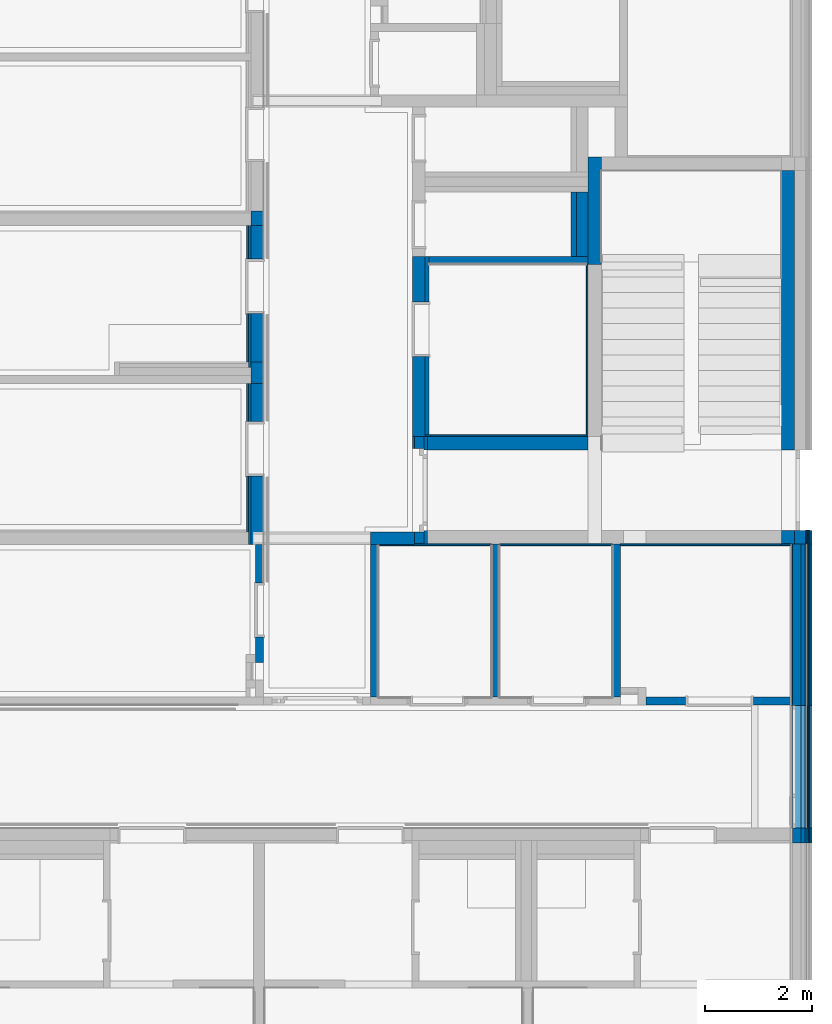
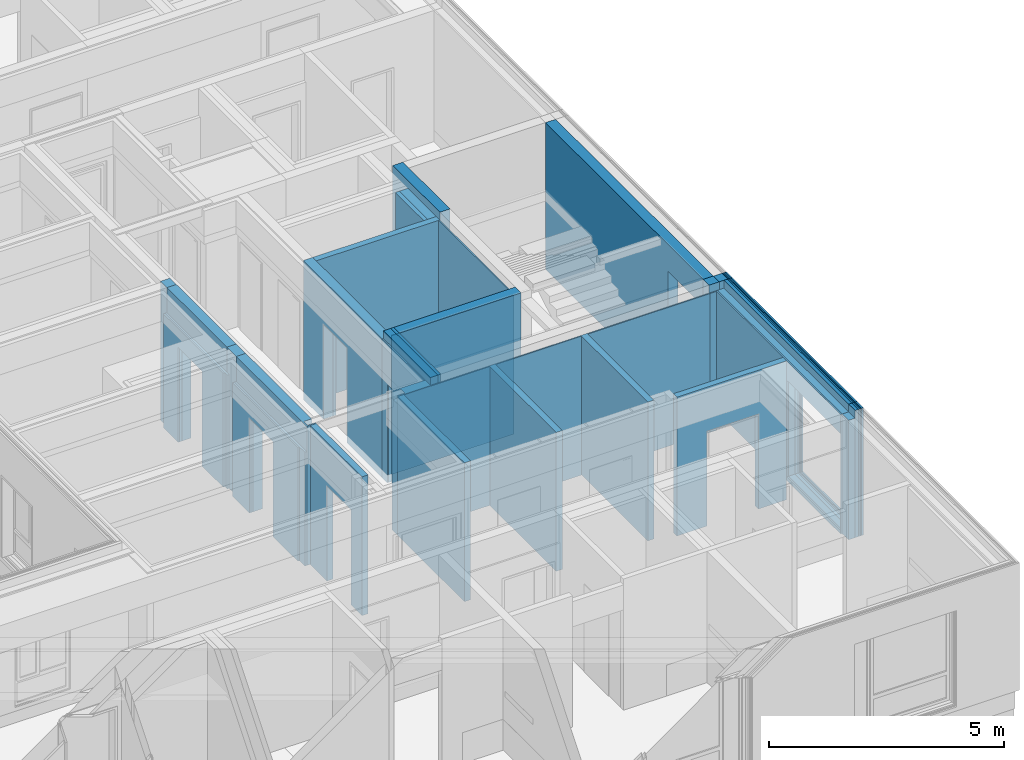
# One storey, part 55 of 207: 48 walls, 21 openings.
"""IFC4 building model written with IfcOpenShell, lengths in metres."""

from ifc_helpers import new_model, entity, si_unit, converted_unit, derived_unit, frame, frame_2d, origin, origin_with_axes, place, context, subcontext, project, spatial, polyline, rectangle, outline, extrude, clip, bounded_halfspace, material, element, save


model = new_model("IFC4")

# Units and contexts
model_context = context("Model", 3, precision=1e-05, world=origin())
body_context = subcontext(model_context, "Body", "Model", "MODEL_VIEW")
ifc_project = project(units=[si_unit("LENGTHUNIT", "METRE"), si_unit("AREAUNIT", "SQUARE_METRE"), si_unit("VOLUMEUNIT", "CUBIC_METRE"), si_unit("MASSUNIT", "GRAM", prefix="KILO"), converted_unit("PLANEANGLEUNIT", "DEGREE", entity("IfcPlaneAngleMeasure", 0.0174532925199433), si_unit("PLANEANGLEUNIT", "RADIAN"), dimensions=[0, 0, 0, 0, 0, 0, 0]), derived_unit("THERMALTRANSMITTANCEUNIT", [(si_unit("POWERUNIT", "WATT"), 1), (si_unit("THERMODYNAMICTEMPERATUREUNIT", "KELVIN"), -1), (si_unit("LENGTHUNIT", "METRE"), -2)]), derived_unit("VOLUMETRICFLOWRATEUNIT", [(si_unit("LENGTHUNIT", "METRE"), 3), (converted_unit("TIMEUNIT", "hour", entity("IfcTimeMeasure", 3600.0), si_unit("TIMEUNIT", "SECOND"), dimensions=[0, 0, 1, 0, 0, 0, 0]), -1), (si_unit("LENGTHUNIT", "METRE"), -1)])], contexts=[model_context])

# Site, building, storey
site_placement = place(None, origin())
site = spatial("IfcSite", under=ifc_project, at=site_placement, Name="Psychiatrie Neubau Wunstorf", CompositionType="ELEMENT")
building_placement = place(site_placement, origin())
building = spatial("IfcBuilding", under=site, at=building_placement, Name="Neubau H2 Stationsgebäude", CompositionType="ELEMENT")
storey_placement = place(building_placement, frame((0.0, 0.0, -0.2)))
storey = spatial("IfcBuildingStorey", under=building, at=storey_placement, Name="H2 Ebene 0", CompositionType="ELEMENT", Elevation=-0.2)

# Wall, opening
ifc_material_1 = material(Name="WA-LB")
wall_1_placement = place(storey_placement, frame((105.889, 10.6249998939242, 0.5), z_axis=(0.0, 0.0, 1.0), x_axis=(0.0, -1.0, 0.0)))
wall_1 = element("IfcWall", 1, at=wall_1_placement, inside=storey, material=ifc_material_1, context=body_context, shape_type="SweptSolid", body=[
    extrude(rectangle(XDim=5.29249989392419, YDim=0.036, at=frame_2d((2.6462499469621, 0.018), x_axis=(1.0, 0.0))), origin_with_axes(), (0.0, 0.0, 1.0), 3.1),
])
opening_1_placement = place(wall_1_placement, frame((3.00624994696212, 0.0, 0.1), z_axis=(0.0, 1.0, 0.0), x_axis=(0.0, 0.0, 1.0)))
element("IfcOpeningElement", 2, at=opening_1_placement, cuts=wall_1, Name="Fensteröffnung", ObjectType="Opening", context=body_context, shape_type="SweptSolid", body=[
    extrude(outline(polyline([(2.5, 2.28), (2.5, 0.0), (0.0, 0.0), (0.0, 2.28), (2.5, 2.28)])), origin_with_axes(), (0.0, 0.0, 1.0), 0.036),
])

ifc_material_2 = material(Name="WA-HD")
wall_2_placement = place(storey_placement, frame((105.925, 10.6249998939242, 0.5), z_axis=(0.0, 0.0, 1.0), x_axis=(0.0, -1.0, 0.0)))
wall_2 = element("IfcWall", 3, at=wall_2_placement, inside=storey, material=ifc_material_2, context=body_context, shape_type="SweptSolid", body=[
    extrude(rectangle(XDim=5.29249989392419, YDim=0.16, at=frame_2d((2.6462499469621, 0.08), x_axis=(1.0, 0.0))), origin_with_axes(), (0.0, 0.0, 1.0), 3.1),
])
opening_2_placement = place(wall_2_placement, frame((3.00624994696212, 0.0, 0.1), z_axis=(0.0, 1.0, 0.0), x_axis=(0.0, 0.0, 1.0)))
element("IfcOpeningElement", 4, at=opening_2_placement, cuts=wall_2, Name="Fensteröffnung", ObjectType="Opening", context=body_context, shape_type="SweptSolid", body=[
    extrude(outline(polyline([(2.5, 2.28), (2.5, 0.0), (0.0, 0.0), (0.0, 2.28), (2.5, 2.28)])), origin_with_axes(), (0.0, 0.0, 1.0), 0.16),
])

ifc_material_3 = material(Name="WA-DL")
wall_3_placement = place(storey_placement, frame((106.085, 10.6249998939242, 0.5), z_axis=(0.0, 0.0, 1.0), x_axis=(0.0, -1.0, 0.0)))
wall_3 = element("IfcWall", 5, at=wall_3_placement, inside=storey, material=ifc_material_3, context=body_context, shape_type="SweptSolid", body=[
    extrude(rectangle(XDim=5.29249989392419, YDim=0.08, at=frame_2d((2.6462499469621, 0.04), x_axis=(1.0, 0.0))), origin_with_axes(), (0.0, 0.0, 1.0), 3.3),
])
opening_3_placement = place(wall_3_placement, frame((3.00624994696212, 0.0, 0.1), z_axis=(0.0, 1.0, 0.0), x_axis=(0.0, 0.0, 1.0)))
element("IfcOpeningElement", 6, at=opening_3_placement, cuts=wall_3, Name="Fensteröffnung", ObjectType="Opening", context=body_context, shape_type="SweptSolid", body=[
    extrude(outline(polyline([(2.5, 2.28), (2.5, 0.0), (0.0, 0.0), (0.0, 2.28), (2.5, 2.28)])), origin_with_axes(), (0.0, 0.0, 1.0), 0.08),
])

ifc_material_4 = material(Name="WA-TP")
wall_4_placement = place(storey_placement, frame((106.165, 10.6249998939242, 0.5), z_axis=(0.0, 0.0, 1.0), x_axis=(0.0, -1.0, 0.0)))
wall_4 = element("IfcWall", 7, at=wall_4_placement, inside=storey, material=ifc_material_4, context=body_context, shape_type="SweptSolid", body=[
    extrude(rectangle(XDim=5.29249989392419, YDim=0.036, at=frame_2d((2.6462499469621, 0.018), x_axis=(1.0, 0.0))), origin_with_axes(), (0.0, 0.0, 1.0), 3.3),
])
opening_4_placement = place(wall_4_placement, frame((3.00624994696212, 0.0, 0.1), z_axis=(0.0, 1.0, 0.0), x_axis=(0.0, 0.0, 1.0)))
element("IfcOpeningElement", 8, at=opening_4_placement, cuts=wall_4, Name="Fensteröffnung", ObjectType="Opening", context=body_context, shape_type="SweptSolid", body=[
    extrude(outline(polyline([(2.5, 2.28), (2.5, 0.0), (0.0, 0.0), (0.0, 2.28), (2.5, 2.28)])), origin_with_axes(), (0.0, 0.0, 1.0), 0.036),
])

ifc_material_5 = material(Name="WA-KL")
wall_5_placement = place(storey_placement, frame((106.201, 10.6249998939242, 0.5), z_axis=(0.0, 0.0, 1.0), x_axis=(0.0, -1.0, 0.0)))
wall_5 = element("IfcWall", 9, at=wall_5_placement, inside=storey, material=ifc_material_5, context=body_context, shape_type="SweptSolid", body=[
    extrude(rectangle(XDim=5.29249989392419, YDim=0.024, at=frame_2d((2.6462499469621, 0.012), x_axis=(1.0, 0.0))), origin_with_axes(), (0.0, 0.0, 1.0), 3.3),
])
opening_5_placement = place(wall_5_placement, frame((3.00624994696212, 0.0, 0.1), z_axis=(0.0, 1.0, 0.0), x_axis=(0.0, 0.0, 1.0)))
element("IfcOpeningElement", 10, at=opening_5_placement, cuts=wall_5, Name="Fensteröffnung", ObjectType="Opening", context=body_context, shape_type="SweptSolid", body=[
    extrude(outline(polyline([(2.5, 2.28), (2.5, 0.0), (0.0, 0.0), (0.0, 2.28), (2.5, 2.28)])), origin_with_axes(), (0.0, 0.0, 1.0), 0.024),
])

ifc_material_6 = material(Name="WA-TL")
wall_6_placement = place(storey_placement, frame((106.225, 10.6249998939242, 0.5), z_axis=(0.0, 0.0, 1.0), x_axis=(0.0, -1.0, 0.0)))
wall_6 = element("IfcWall", 11, at=wall_6_placement, inside=storey, material=ifc_material_6, context=body_context, shape_type="SweptSolid", body=[
    extrude(rectangle(XDim=5.29249989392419, YDim=0.024, at=frame_2d((2.6462499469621, 0.012), x_axis=(1.0, 0.0))), origin_with_axes(), (0.0, 0.0, 1.0), 3.3),
])
opening_6_placement = place(wall_6_placement, frame((3.00624994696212, 0.0, 0.1), z_axis=(0.0, 1.0, 0.0), x_axis=(0.0, 0.0, 1.0)))
element("IfcOpeningElement", 12, at=opening_6_placement, cuts=wall_6, Name="Fensteröffnung", ObjectType="Opening", context=body_context, shape_type="SweptSolid", body=[
    extrude(outline(polyline([(2.5, 2.28), (2.5, 0.0), (0.0, 0.0), (0.0, 2.28), (2.5, 2.28)])), origin_with_axes(), (0.0, 0.0, 1.0), 0.024),
])

ifc_material_7 = material(Name="WA-HS")
wall_7_placement = place(storey_placement, frame((106.249, 10.6249998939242, 0.5), z_axis=(0.0, 0.0, 1.0), x_axis=(0.0, -1.0, 0.0)))
wall_7 = element("IfcWall", 13, at=wall_7_placement, inside=storey, material=ifc_material_7, context=body_context, shape_type="SweptSolid", body=[
    extrude(rectangle(XDim=5.29249989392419, YDim=0.042, at=frame_2d((2.6462499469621, 0.021), x_axis=(1.0, 0.0))), origin_with_axes(), (0.0, 0.0, 1.0), 3.3),
])
opening_7_placement = place(wall_7_placement, frame((3.00624994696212, 0.0, 0.1), z_axis=(0.0, 1.0, 0.0), x_axis=(0.0, 0.0, 1.0)))
element("IfcOpeningElement", 14, at=opening_7_placement, cuts=wall_7, Name="Fensteröffnung", ObjectType="Opening", context=body_context, shape_type="SweptSolid", body=[
    extrude(outline(polyline([(2.5, 2.28), (2.5, 0.0), (0.0, 0.0), (0.0, 2.28), (2.5, 2.28)])), origin_with_axes(), (0.0, 0.0, 1.0), 0.042),
])

# Walls
ifc_material_8 = material(Name="WA-HD")
wall_8_placement = place(storey_placement, frame((105.925, 5.33250000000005, 0.5), z_axis=(0.0, 0.0, 1.0), x_axis=(0.0, -1.0, 0.0)))
element("IfcWall", 15, at=wall_8_placement, inside=storey, material=ifc_material_8, context=body_context, shape_type="SweptSolid", body=[
    extrude(rectangle(XDim=0.272, YDim=0.16, at=frame_2d((0.136, 0.08), x_axis=(1.0, 0.0))), origin_with_axes(), (0.0, 0.0, 1.0), 3.1),
])
ifc_material_9 = material(Name="WA-DL")
wall_9_placement = place(storey_placement, frame((106.085, 5.33250000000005, 0.5), z_axis=(0.0, 0.0, 1.0), x_axis=(0.0, -1.0, 0.0)))
element("IfcWall", 16, at=wall_9_placement, inside=storey, material=ifc_material_9, context=body_context, shape_type="SweptSolid", body=[
    extrude(rectangle(XDim=0.272, YDim=0.08, at=frame_2d((0.136, 0.04), x_axis=(1.0, 0.0))), origin_with_axes(), (0.0, 0.0, 1.0), 3.3),
])
ifc_material_10 = material(Name="WA-TP")
wall_10_placement = place(storey_placement, frame((106.165, 5.33250000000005, 0.5), z_axis=(0.0, 0.0, 1.0), x_axis=(0.0, -1.0, 0.0)))
element("IfcWall", 17, at=wall_10_placement, inside=storey, material=ifc_material_10, context=body_context, shape_type="SweptSolid", body=[
    extrude(rectangle(XDim=0.272, YDim=0.036, at=frame_2d((0.136, 0.018), x_axis=(1.0, 0.0))), origin_with_axes(), (0.0, 0.0, 1.0), 3.3),
])
ifc_material_11 = material(Name="WA-KL")
wall_11_placement = place(storey_placement, frame((106.201, 5.33250000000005, 0.5), z_axis=(0.0, 0.0, 1.0), x_axis=(0.0, -1.0, 0.0)))
element("IfcWall", 18, at=wall_11_placement, inside=storey, material=ifc_material_11, context=body_context, shape_type="SweptSolid", body=[
    extrude(rectangle(XDim=0.272, YDim=0.024, at=frame_2d((0.136, 0.012), x_axis=(1.0, 0.0))), origin_with_axes(), (0.0, 0.0, 1.0), 3.3),
])
ifc_material_12 = material(Name="WA-TL")
wall_12_placement = place(storey_placement, frame((106.225, 5.33250000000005, 0.5), z_axis=(0.0, 0.0, 1.0), x_axis=(0.0, -1.0, 0.0)))
element("IfcWall", 19, at=wall_12_placement, inside=storey, material=ifc_material_12, context=body_context, shape_type="SweptSolid", body=[
    extrude(rectangle(XDim=0.272, YDim=0.024, at=frame_2d((0.136, 0.012), x_axis=(1.0, 0.0))), origin_with_axes(), (0.0, 0.0, 1.0), 3.3),
])
ifc_material_13 = material(Name="WA-HS")
wall_13_placement = place(storey_placement, frame((106.249, 5.33250000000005, 0.5), z_axis=(0.0, 0.0, 1.0), x_axis=(0.0, -1.0, 0.0)))
element("IfcWall", 20, at=wall_13_placement, inside=storey, material=ifc_material_13, context=body_context, shape_type="SweptSolid", body=[
    extrude(rectangle(XDim=0.272, YDim=0.042, at=frame_2d((0.136, 0.021), x_axis=(1.0, 0.0))), origin_with_axes(), (0.0, 0.0, 1.0), 3.3),
])

# Wall, opening
ifc_material_14 = material(Name="WA-STB")
wall_14_placement = place(storey_placement, frame((105.72, 17.575, 0.0), z_axis=(0.0, 0.0, 1.0), x_axis=(0.0, -1.0, 0.0)))
wall_14 = element("IfcWall", 21, at=wall_14_placement, inside=storey, material=ifc_material_14, context=body_context, shape_type="SweptSolid", body=[
    extrude(rectangle(XDim=6.70000010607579, YDim=0.25, at=frame_2d((3.3500000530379, 0.125), x_axis=(1.0, 0.0))), origin_with_axes(), (0.0, 0.0, 1.0), 3.8),
])
opening_8_placement = place(wall_14_placement, frame((6.70000010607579, 0.25, 0.0), z_axis=(0.0, -1.0, 0.0), x_axis=(0.0, 0.0, 1.0)))
element("IfcOpeningElement", 22, at=opening_8_placement, cuts=wall_14, Name="Türöffnung", ObjectType="Opening", context=body_context, shape_type="SweptSolid", body=[
    extrude(outline(polyline([(3.1, 1.5000257), (3.1, 0.0), (0.0, 0.0), (0.0, 1.5000257), (3.1, 1.5000257)])), origin_with_axes(), (0.0, 0.0, 1.0), 0.25),
])

# Walls
ifc_material_15 = material(Name="WA-STB")
wall_15_placement = place(storey_placement, frame((105.72, 10.8749998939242, 0.0), z_axis=(0.0, 0.0, 1.0), x_axis=(0.0, -1.0, 0.0)))
element("IfcWall", 23, at=wall_15_placement, inside=storey, material=ifc_material_15, context=body_context, shape_type="SweptSolid", body=[
    extrude(rectangle(XDim=0.25, YDim=0.25, at=frame_2d((0.125, 0.125), x_axis=(1.0, 0.0))), origin_with_axes(), (0.0, 0.0, 1.0), 3.8),
])
ifc_material_16 = material(Name="WA-DL")
wall_16_placement = place(storey_placement, frame((105.97, 10.8749998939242, 0.0), z_axis=(0.0, 0.0, 1.0), x_axis=(0.0, -1.0, 0.0)))
element("IfcWall", 24, at=wall_16_placement, inside=storey, material=ifc_material_16, context=body_context, shape_type="SweptSolid", body=[
    extrude(rectangle(XDim=0.25, YDim=0.21, at=frame_2d((0.125, 0.105), x_axis=(1.0, 0.0))), origin_with_axes(), (0.0, 0.0, 1.0), 3.8),
])
ifc_material_17 = material(Name="WA-LB")
wall_17_placement = place(storey_placement, frame((106.18, 10.8749998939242, 0.5), z_axis=(0.0, 0.0, 1.0), x_axis=(0.0, -1.0, 0.0)))
element("IfcWall", 25, at=wall_17_placement, inside=storey, material=ifc_material_17, context=body_context, shape_type="SweptSolid", body=[
    extrude(rectangle(XDim=0.25, YDim=0.021, at=frame_2d((0.125, 0.0105), x_axis=(1.0, 0.0))), origin_with_axes(), (0.0, 0.0, 1.0), 3.3),
])
ifc_material_18 = material(Name="WA-KL")
wall_18_placement = place(storey_placement, frame((106.201, 10.8749998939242, 0.0), z_axis=(0.0, 0.0, 1.0), x_axis=(0.0, -1.0, 0.0)))
element("IfcWall", 26, at=wall_18_placement, inside=storey, material=ifc_material_18, context=body_context, shape_type="SweptSolid", body=[
    extrude(rectangle(XDim=0.25, YDim=0.024, at=frame_2d((0.125, 0.012), x_axis=(1.0, 0.0))), origin_with_axes(), (0.0, 0.0, 1.0), 3.8),
])
ifc_material_19 = material(Name="WA-TL")
wall_19_placement = place(storey_placement, frame((106.225, 10.8749998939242, 0.0), z_axis=(0.0, 0.0, 1.0), x_axis=(0.0, -1.0, 0.0)))
element("IfcWall", 27, at=wall_19_placement, inside=storey, material=ifc_material_19, context=body_context, shape_type="SweptSolid", body=[
    extrude(rectangle(XDim=0.25, YDim=0.024, at=frame_2d((0.125, 0.012), x_axis=(1.0, 0.0))), origin_with_axes(), (0.0, 0.0, 1.0), 3.8),
])
ifc_material_20 = material(Name="WA-HS")
wall_20_placement = place(storey_placement, frame((106.249, 10.8749998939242, 0.0), z_axis=(0.0, 0.0, 1.0), x_axis=(0.0, -1.0, 0.0)))
element("IfcWall", 28, at=wall_20_placement, inside=storey, material=ifc_material_20, context=body_context, shape_type="SweptSolid", body=[
    extrude(rectangle(XDim=0.25, YDim=0.042, at=frame_2d((0.125, 0.021), x_axis=(1.0, 0.0))), origin_with_axes(), (0.0, 0.0, 1.0), 3.8),
])
ifc_material_21 = material(Name="Installationsraum")
wall_21_placement = place(storey_placement, frame((102.12, 15.9749998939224, 0.0), z_axis=(0.0, 0.0, 1.0), x_axis=(0.0, 1.0, 0.0)))
element("IfcWall", 29, at=wall_21_placement, inside=storey, material=ifc_material_21, context=body_context, shape_type="SweptSolid", body=[
    extrude(rectangle(XDim=1.20200277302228, YDim=0.21, at=frame_2d((0.60100138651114, 0.105), x_axis=(1.0, 0.0))), origin_with_axes(), (0.0, 0.0, 1.0), 3.6),
])
ifc_material_22 = material(Name="WI-VS")
wall_22_placement = place(storey_placement, frame((101.91, 15.9749998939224, 0.0), z_axis=(0.0, 0.0, 1.0), x_axis=(0.0, 1.0, 0.0)))
element("IfcWall", 30, at=wall_22_placement, inside=storey, material=ifc_material_22, context=body_context, shape_type="SweptSolid", body=[
    extrude(rectangle(XDim=1.20200277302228, YDim=0.1, at=frame_2d((0.60100138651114, 0.05), x_axis=(1.0, 0.0))), origin_with_axes(), (0.0, 0.0, 1.0), 3.6),
])
ifc_material_23 = material(Name="WI-LB")
wall_23_placement = place(storey_placement, frame((100.325, 10.6249998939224, 0.0), z_axis=(0.0, 0.0, 1.0), x_axis=(0.0, -1.0, 0.0)))
element("IfcWall", 31, at=wall_23_placement, inside=storey, material=ifc_material_23, context=body_context, shape_type="SweptSolid", body=[
    extrude(rectangle(XDim=2.85, YDim=0.15, at=frame_2d((1.425, 0.075), x_axis=(1.0, 0.0))), origin_with_axes(), (0.0, 0.0, 1.0), 3.6),
])
ifc_material_24 = material(Name="WI-HW 60")
wall_24_placement = place(storey_placement, frame((95.8505, 14.0109999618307, 0.0), z_axis=(0.0, 0.0, 1.0), x_axis=(0.0, -1.0, 0.0)))
element("IfcWall", 32, at=wall_24_placement, inside=storey, material=ifc_material_24, context=body_context, shape_type="SweptSolid", body=[
    extrude(rectangle(XDim=0.4, YDim=0.232, at=frame_2d((0.2, 0.116), x_axis=(1.0, 0.0))), origin_with_axes(), (0.0, 0.0, 1.0), 3.6),
])

# Wall, opening
ifc_material_25 = material(Name="WI-LB")
wall_25_placement = place(storey_placement, frame((95.7609999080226, 13.6109999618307, 0.0), z_axis=(0.0, 0.0, 1.0), x_axis=(0.0, -1.0, 0.0)))
wall_25 = element("IfcWall", 33, at=wall_25_placement, inside=storey, material=ifc_material_25, context=body_context, shape_type="SweptSolid", body=[
    extrude(rectangle(XDim=2.76850006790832, YDim=0.0395, at=frame_2d((1.38425003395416, 0.01975), x_axis=(1.0, 0.0))), origin_with_axes(), (0.0, 0.0, 1.0), 2.95),
])
opening_9_placement = place(wall_25_placement, frame((1.72099996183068, 0.0395, 0.0), z_axis=(0.0, -1.0, 0.0), x_axis=(0.0, 0.0, 1.0)))
element("IfcOpeningElement", 34, at=opening_9_placement, cuts=wall_25, Name="Türöffnung", ObjectType="Opening", context=body_context, shape_type="SweptSolid", body=[
    extrude(outline(polyline([(2.46, 1.01), (2.46, 0.0), (0.0, 0.0), (0.0, 1.01), (2.46, 1.01)])), origin_with_axes(), (0.0, 0.0, 1.0), 0.0395),
])

ifc_material_26 = material(Name="Installationsraum")
wall_26_placement = place(storey_placement, frame((95.8004999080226, 13.6109999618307, 0.0), z_axis=(0.0, 0.0, 1.0), x_axis=(0.0, -1.0, 0.0)))
wall_26 = element("IfcWall", 35, at=wall_26_placement, inside=storey, material=ifc_material_26, context=body_context, shape_type="SweptSolid", body=[
    extrude(rectangle(XDim=3.00050006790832, YDim=0.05, at=frame_2d((1.50025003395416, 0.025), x_axis=(1.0, 0.0))), origin_with_axes(), (0.0, 0.0, 1.0), 2.95),
])
opening_10_placement = place(wall_26_placement, frame((1.72099996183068, 0.05, 0.0), z_axis=(0.0, -1.0, 0.0), x_axis=(0.0, 0.0, 1.0)))
element("IfcOpeningElement", 36, at=opening_10_placement, cuts=wall_26, Name="Türöffnung", ObjectType="Opening", context=body_context, shape_type="SweptSolid", body=[
    extrude(outline(polyline([(2.46, 1.01), (2.46, 0.0), (0.0, 0.0), (0.0, 1.01), (2.46, 1.01)])), origin_with_axes(), (0.0, 0.0, 1.0), 0.05),
])

ifc_material_27 = material(Name="WI-HW 60")
wall_27_placement = place(storey_placement, frame((95.8504999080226, 13.6109999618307, 0.0), z_axis=(0.0, 0.0, 1.0), x_axis=(3.06540294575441e-08, -1.0, 0.0)))
wall_27 = element("IfcWall", 37, at=wall_27_placement, inside=storey, material=ifc_material_27, context=body_context, shape_type="Clipping", body=[
    clip(extrude(outline(polyline([(-3.00050006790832, 9.19774174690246e-08), (-0.231999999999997, 9.90891523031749e-08), (0.0, 9.19774174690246e-08), (0.0, 0.232), (-3.00050006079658, 0.232000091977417), (-3.00050006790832, 9.19774174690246e-08)])), frame((3.00050006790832, -9.19774174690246e-08, 0.0), z_axis=(0.0, 0.0, 1.0), x_axis=(1.0, 0.0, 0.0)), (0.0, 0.0, 1.0), 3.6), bounded_halfspace(frame((2.88450147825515, 0.133996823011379, 3.4), z_axis=(0.0, 0.0, -1.0), x_axis=(1.0, -3.06540294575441e-08, 0.0)), True, origin_with_axes(), polyline([(2.80450147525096, 0.0359937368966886), (2.96450147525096, 0.0359937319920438), (2.96450148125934, 0.231999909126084), (2.80450148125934, 0.231999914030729), (2.80450147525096, 0.0359937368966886)]))),
])
opening_11_placement = place(wall_27_placement, frame((1.72099996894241, 0.231999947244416, 0.0), z_axis=(-3.06540298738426e-08, -0.999999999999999, 0.0), x_axis=(0.0, 0.0, 1.0)))
element("IfcOpeningElement", 38, at=opening_11_placement, cuts=wall_27, Name="Türöffnung", ObjectType="Opening", context=body_context, shape_type="SweptSolid", body=[
    extrude(outline(polyline([(2.46, 1.01), (2.46, 0.0), (0.0, 0.0), (0.0, 1.01), (2.46, 1.01)])), origin_with_axes(), (0.0, 0.0, 1.0), 0.232),
])

# Wall
ifc_material_28 = material(Name="WI-LB")
wall_28_placement = place(storey_placement, frame((98.075, 10.6107484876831, 0.0), z_axis=(0.0, 0.0, 1.0), x_axis=(0.0, -1.0, 0.0)))
element("IfcWall", 39, at=wall_28_placement, inside=storey, material=ifc_material_28, context=body_context, shape_type="SweptSolid", body=[
    extrude(rectangle(XDim=2.83574859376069, YDim=0.15, at=frame_2d((1.41787429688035, 0.075), x_axis=(1.0, 0.0))), origin_with_axes(), (0.0, 0.0, 1.0), 3.6),
])

# Wall, opening
ifc_material_29 = material(Name="WI-LB")
wall_29_placement = place(storey_placement, frame((95.7610000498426, 16.5535, 0.0), z_axis=(0.0, 0.0, 1.0), x_axis=(0.0, -1.0, 0.0)))
wall_29 = element("IfcWall", 40, at=wall_29_placement, inside=storey, material=ifc_material_29, context=body_context, shape_type="SweptSolid", body=[
    extrude(rectangle(XDim=2.54250003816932, YDim=0.0395, at=frame_2d((1.27125001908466, 0.01975), x_axis=(1.0, 0.0))), origin_with_axes(), (0.0, 0.0, 1.0), 2.95),
])
opening_12_placement = place(wall_29_placement, frame((1.63849999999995, 0.0395, 0.0), z_axis=(0.0, -1.0, 0.0), x_axis=(0.0, 0.0, 1.0)))
element("IfcOpeningElement", 41, at=opening_12_placement, cuts=wall_29, Name="Türöffnung", ObjectType="Opening", context=body_context, shape_type="SweptSolid", body=[
    extrude(outline(polyline([(2.46, 1.01), (2.46, 0.0), (0.0, 0.0), (0.0, 1.01), (2.46, 1.01)])), origin_with_axes(), (0.0, 0.0, 1.0), 0.0395),
])

ifc_material_30 = material(Name="Installationsraum")
wall_30_placement = place(storey_placement, frame((95.8005000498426, 16.5535, 0.0), z_axis=(0.0, 0.0, 1.0), x_axis=(0.0, -1.0, 0.0)))
wall_30 = element("IfcWall", 42, at=wall_30_placement, inside=storey, material=ifc_material_30, context=body_context, shape_type="SweptSolid", body=[
    extrude(rectangle(XDim=2.64250003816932, YDim=0.05, at=frame_2d((1.32125001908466, 0.025), x_axis=(1.0, 0.0))), origin_with_axes(), (0.0, 0.0, 1.0), 2.95),
])
opening_13_placement = place(wall_30_placement, frame((1.63849999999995, 0.05, 0.0), z_axis=(0.0, -1.0, 0.0), x_axis=(0.0, 0.0, 1.0)))
element("IfcOpeningElement", 43, at=opening_13_placement, cuts=wall_30, Name="Türöffnung", ObjectType="Opening", context=body_context, shape_type="SweptSolid", body=[
    extrude(outline(polyline([(2.46, 1.01), (2.46, 0.0), (0.0, 0.0), (0.0, 1.01), (2.46, 1.01)])), origin_with_axes(), (0.0, 0.0, 1.0), 0.05),
])

ifc_material_31 = material(Name="WI-HW 60")
wall_31_placement = place(storey_placement, frame((95.8505000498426, 16.5535, 0.0), z_axis=(0.0, 0.0, 1.0), x_axis=(0.0, -1.0, 0.0)))
wall_31 = element("IfcWall", 44, at=wall_31_placement, inside=storey, material=ifc_material_31, context=body_context, shape_type="SweptSolid", body=[
    extrude(rectangle(XDim=2.54250003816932, YDim=0.231999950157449, at=frame_2d((1.27125001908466, 0.115999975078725), x_axis=(1.0, 0.0))), origin_with_axes(), (0.0, 0.0, 1.0), 3.6),
])
opening_14_placement = place(wall_31_placement, frame((1.63849999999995, 0.231999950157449, 0.0), z_axis=(0.0, -1.0, 0.0), x_axis=(0.0, 0.0, 1.0)))
element("IfcOpeningElement", 45, at=opening_14_placement, cuts=wall_31, Name="Türöffnung", ObjectType="Opening", context=body_context, shape_type="SweptSolid", body=[
    extrude(outline(polyline([(2.46, 1.01), (2.46, 0.0), (0.0, 0.0), (0.0, 1.01), (2.46, 1.01)])), origin_with_axes(), (0.0, 0.0, 1.0), 0.231999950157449),
])

# Wall
ifc_material_32 = material(Name="WI-HW 60")
wall_32_placement = place(storey_placement, frame((95.8505, 16.8255, 0.0), z_axis=(0.0, 0.0, 1.0), x_axis=(0.0, -1.0, 0.0)))
element("IfcWall", 46, at=wall_32_placement, inside=storey, material=ifc_material_32, context=body_context, shape_type="SweptSolid", body=[
    extrude(rectangle(XDim=0.272, YDim=0.232, at=frame_2d((0.136, 0.116), x_axis=(1.0, 0.0))), origin_with_axes(), (0.0, 0.0, 1.0), 3.6),
])

# Wall, opening
ifc_material_33 = material(Name="WI-LB")
wall_33_placement = place(storey_placement, frame((103.2, 7.62499989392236, 0.0)))
wall_33 = element("IfcWall", 47, at=wall_33_placement, inside=storey, material=ifc_material_33, context=body_context, shape_type="SweptSolid", body=[
    extrude(rectangle(XDim=2.689, YDim=0.15, at=frame_2d((1.3445, 0.075), x_axis=(1.0, 0.0))), origin_with_axes(), (0.0, 0.0, 1.0), 3.6),
])
opening_15_placement = place(wall_33_placement, frame((2.0, 0.15, 0.0), z_axis=(0.0, -1.0, 0.0), x_axis=(0.0, 0.0, 1.0)))
element("IfcOpeningElement", 48, at=opening_15_placement, cuts=wall_33, Name="Türöffnung", ObjectType="Opening", context=body_context, shape_type="SweptSolid", body=[
    extrude(outline(polyline([(2.46, 1.26), (2.46, 0.0), (0.0, 0.0), (0.0, 1.26), (2.46, 1.26)])), origin_with_axes(), (0.0, 0.0, 1.0), 0.15),
])

ifc_material_34 = material(Name="WI-LB")
wall_34_placement = place(storey_placement, frame((95.9325000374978, 10.6104998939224, 0.0), z_axis=(0.0, 0.0, 1.0), x_axis=(0.0, -1.0, 0.0)))
wall_34 = element("IfcWall", 49, at=wall_34_placement, inside=storey, material=ifc_material_34, context=body_context, shape_type="SweptSolid", body=[
    extrude(rectangle(XDim=2.19550000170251, YDim=0.15, at=frame_2d((1.09775000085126, 0.075), x_axis=(1.0, 0.0))), origin_with_axes(), (0.0, 0.0, 1.0), 3.6),
])
opening_16_placement = place(wall_34_placement, frame((1.72049989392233, 0.15, 0.0), z_axis=(0.0, -1.0, 0.0), x_axis=(0.0, 0.0, 1.0)))
element("IfcOpeningElement", 50, at=opening_16_placement, cuts=wall_34, Name="Türöffnung", ObjectType="Opening", context=body_context, shape_type="SweptSolid", body=[
    extrude(outline(polyline([(2.46, 1.01), (2.46, 0.0), (0.0, 0.0), (0.0, 1.01), (2.46, 1.01)])), origin_with_axes(), (0.0, 0.0, 1.0), 0.15),
])

# Walls
ifc_material_35 = material(Name="WI-LB")
wall_35_placement = place(storey_placement, frame((99.091, 12.6250013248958, 0.0), z_axis=(0.0, 0.0, 1.0), x_axis=(0.999999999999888, -4.72423644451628e-07, 0.0)))
element("IfcWall", 51, at=wall_35_placement, inside=storey, material=ifc_material_35, context=body_context, shape_type="SweptSolid", body=[
    extrude(rectangle(XDim=2.99900036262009, YDim=0.0299996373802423, at=frame_2d((1.49950018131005, 0.0149998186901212), x_axis=(1.0, 0.0))), origin_with_axes(), (0.0, 0.0, 1.0), 3.6),
])
ifc_material_36 = material(Name="WI-LB")
wall_36_placement = place(storey_placement, frame((105.889, 10.6249998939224, 0.0), z_axis=(0.0, 0.0, 1.0), x_axis=(-1.0, 0.0, 0.0)))
element("IfcWall", 52, at=wall_36_placement, inside=storey, material=ifc_material_36, context=body_context, shape_type="SweptSolid", body=[
    extrude(rectangle(XDim=0.169, YDim=0.0299996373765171, at=frame_2d((0.0845, 0.0149998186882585), x_axis=(1.0, 0.0))), origin_with_axes(), (0.0, 0.0, 1.0), 3.6),
])
ifc_material_37 = material(Name="WI-LB")
wall_37_placement = place(storey_placement, frame((102.12, 15.9749998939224, 0.0), z_axis=(0.0, 0.0, 1.0), x_axis=(-1.0, 0.0, 0.0)))
element("IfcWall", 53, at=wall_37_placement, inside=storey, material=ifc_material_37, context=body_context, shape_type="SweptSolid", body=[
    extrude(rectangle(XDim=3.029, YDim=0.15, at=frame_2d((1.5145, 0.075), x_axis=(1.0, 0.0))), origin_with_axes(), (0.0, 0.0, 1.0), 3.6),
])

# Wall, opening
ifc_material_38 = material(Name="WI-LB")
wall_38_placement = place(storey_placement, frame((99.166, 12.6550009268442, 0.0), z_axis=(0.0, 0.0, 1.0), x_axis=(0.0, 1.0, 0.0)))
wall_38 = element("IfcWall", 54, at=wall_38_placement, inside=storey, material=ifc_material_38, context=body_context, shape_type="SweptSolid", body=[
    extrude(rectangle(XDim=3.31999896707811, YDim=0.075, at=frame_2d((1.65999948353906, 0.0375), x_axis=(1.0, 0.0))), origin_with_axes(), (0.0, 0.0, 1.0), 2.9),
])
opening_17_placement = place(wall_38_placement, frame((2.47000039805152, 0.075, 0.0), z_axis=(0.0, -1.0, 0.0), x_axis=(0.0, 0.0, 1.0)))
element("IfcOpeningElement", 55, at=opening_17_placement, cuts=wall_38, Name="Türöffnung", ObjectType="Opening", context=body_context, shape_type="SweptSolid", body=[
    extrude(outline(polyline([(2.46, 1.01), (2.46, 0.0), (0.0, 0.0), (0.0, 1.01), (2.46, 1.01)])), origin_with_axes(), (0.0, 0.0, 1.0), 0.075),
])

ifc_material_39 = material(Name="WI-HW 60")
wall_39_placement = place(storey_placement, frame((99.091, 12.6250013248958, 0.0), z_axis=(0.0, 0.0, 1.0), x_axis=(0.0, 1.0, 0.0)))
wall_39 = element("IfcWall", 56, at=wall_39_placement, inside=storey, material=ifc_material_39, context=body_context, shape_type="SweptSolid", body=[
    extrude(rectangle(XDim=3.34999856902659, YDim=0.232, at=frame_2d((1.67499928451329, 0.116), x_axis=(1.0, 0.0))), origin_with_axes(), (0.0, 0.0, 1.0), 3.6),
])
opening_18_placement = place(wall_39_placement, frame((2.5, 0.232, 0.0), z_axis=(0.0, -1.0, 0.0), x_axis=(0.0, 0.0, 1.0)))
element("IfcOpeningElement", 57, at=opening_18_placement, cuts=wall_39, Name="Türöffnung", ObjectType="Opening", context=body_context, shape_type="SweptSolid", body=[
    extrude(outline(polyline([(2.46, 1.01), (2.46, 0.0), (0.0, 0.0), (0.0, 1.01), (2.46, 1.01)])), origin_with_axes(), (0.0, 0.0, 1.0), 0.232),
])

# Walls
ifc_material_40 = material(Name="WI-LB")
wall_40_placement = place(storey_placement, frame((102.575, 10.6249998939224, 0.0), z_axis=(0.0, 0.0, 1.0), x_axis=(0.0, -1.0, 0.0)))
element("IfcWall", 58, at=wall_40_placement, inside=storey, material=ifc_material_40, context=body_context, shape_type="SweptSolid", body=[
    extrude(rectangle(XDim=2.85, YDim=0.15, at=frame_2d((1.425, 0.075), x_axis=(1.0, 0.0))), origin_with_axes(), (0.0, 0.0, 1.0), 3.6),
])
ifc_material_41 = material(Name="WI-HW 60")
wall_41_placement = place(storey_placement, frame((98.0749950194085, 10.6129998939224, 0.0)))
element("IfcWall", 59, at=wall_41_placement, inside=storey, material=ifc_material_41, context=body_context, shape_type="Clipping", body=[
    clip(extrude(rectangle(XDim=0.813996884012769, YDim=0.232, at=frame_2d((0.406998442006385, 0.116), x_axis=(1.0, 0.0))), origin_with_axes(), (0.0, 0.0, 1.0), 3.6), bounded_halfspace(frame((0.1, 0.113498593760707, 3.4), z_axis=(0.0, 0.0, -1.0), x_axis=(0.0, -1.0, 0.0)), True, origin_with_axes(), polyline([(0.0, 0.193498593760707), (0.0, 0.0334985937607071), (0.2, 0.0334985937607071), (0.2, 0.193498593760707), (0.0, 0.193498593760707)]))),
])
ifc_material_42 = material(Name="WI-STB")
wall_42_placement = place(storey_placement, frame((102.12, 17.825, 0.0), z_axis=(0.0, 0.0, 1.0), x_axis=(0.0, -1.0, 0.0)))
element("IfcWall", 60, at=wall_42_placement, inside=storey, material=ifc_material_42, context=body_context, shape_type="SweptSolid", body=[
    extrude(rectangle(XDim=2.00000010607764, YDim=0.25, at=frame_2d((1.00000005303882, 0.125), x_axis=(1.0, 0.0))), origin_with_axes(), (0.0, 0.0, 1.0), 3.8),
])
ifc_material_43 = material(Name="WI-STB")
wall_43_placement = place(storey_placement, frame((102.12, 12.6249998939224, 0.0), z_axis=(0.0, 0.0, 1.0), x_axis=(-1.0, 0.0, 0.0)))
element("IfcWall", 61, at=wall_43_placement, inside=storey, material=ifc_material_43, context=body_context, shape_type="SweptSolid", body=[
    extrude(rectangle(XDim=2.981, YDim=0.25, at=frame_2d((1.4905, 0.125), x_axis=(1.0, 0.0))), origin_with_axes(), (0.0, 0.0, 1.0), 3.8),
])

# Wall, opening
ifc_material_44 = material(Name="WI-STB")
wall_44_placement = place(storey_placement, frame((99.0689919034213, 10.6249998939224, 0.0), z_axis=(0.0, 0.0, 1.0), x_axis=(0.0, 1.0, 0.0)))
wall_44 = element("IfcWall", 62, at=wall_44_placement, inside=storey, material=ifc_material_44, context=body_context, shape_type="SweptSolid", body=[
    extrude(rectangle(XDim=1.99998789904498, YDim=0.18, at=frame_2d((0.999993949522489, 0.09), x_axis=(1.0, 0.0))), origin_with_axes(), (0.0, 0.0, 1.0), 3.8),
])
opening_19_placement = place(wall_44_placement, frame((1.78, 0.18, 0.0), z_axis=(0.0, -1.0, 0.0), x_axis=(0.0, 0.0, 1.0)))
element("IfcOpeningElement", 63, at=opening_19_placement, cuts=wall_44, Name="Türöffnung", ObjectType="Opening", context=body_context, shape_type="SweptSolid", body=[
    extrude(outline(polyline([(2.55, 1.56), (2.55, 0.0), (0.0, 0.0), (0.0, 1.56), (2.55, 1.56)])), origin_with_axes(), (0.0, 0.0, 1.0), 0.18),
])

ifc_material_45 = material(Name="WI-LB")
wall_45_placement = place(storey_placement, frame((98.8889919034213, 10.8449998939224, 0.0), z_axis=(0.0, 0.0, 1.0), x_axis=(0.0, 1.0, 0.0)))
wall_45 = element("IfcWall", 64, at=wall_45_placement, inside=storey, material=ifc_material_45, context=body_context, shape_type="SweptSolid", body=[
    extrude(rectangle(XDim=1.77998789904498, YDim=0.0299996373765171, at=frame_2d((0.889993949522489, 0.0149998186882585), x_axis=(1.0, 0.0))), origin_with_axes(), (0.0, 0.0, 1.0), 3.6),
])
opening_20_placement = place(wall_45_placement, frame((1.56, 0.0299996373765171, 0.0), z_axis=(0.0, -1.0, 0.0), x_axis=(0.0, 0.0, 1.0)))
element("IfcOpeningElement", 65, at=opening_20_placement, cuts=wall_45, Name="Türöffnung", ObjectType="Opening", context=body_context, shape_type="SweptSolid", body=[
    extrude(outline(polyline([(2.55, 1.56), (2.55, 0.0), (0.0, 0.0), (0.0, 1.56), (2.55, 1.56)])), origin_with_axes(), (0.0, 0.0, 1.0), 0.0299996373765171),
])

ifc_material_46 = material(Name="WI-STB")
wall_46_placement = place(storey_placement, frame((99.1389919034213, 10.6249998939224, 0.0), z_axis=(0.0, 0.0, 1.0), x_axis=(0.0, 1.0, 0.0)))
wall_46 = element("IfcWall", 66, at=wall_46_placement, inside=storey, material=ifc_material_46, context=body_context, shape_type="SweptSolid", body=[
    extrude(rectangle(XDim=1.99998789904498, YDim=0.07, at=frame_2d((0.999993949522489, 0.035), x_axis=(1.0, 0.0))), origin_with_axes(), (0.0, 0.0, 1.0), 3.8),
])
opening_21_placement = place(wall_46_placement, frame((1.75, 0.07, 0.0), z_axis=(0.0, -1.0, 0.0), x_axis=(0.0, 0.0, 1.0)))
element("IfcOpeningElement", 67, at=opening_21_placement, cuts=wall_46, Name="Türöffnung", ObjectType="Opening", context=body_context, shape_type="SweptSolid", body=[
    extrude(outline(polyline([(2.52, 1.5), (2.52, 0.0), (0.0, 0.0), (0.0, 1.5), (2.52, 1.5)])), origin_with_axes(), (0.0, 0.0, 1.0), 0.07),
])

# Walls
ifc_material_47 = material(Name="WI-LB")
wall_47_placement = place(storey_placement, frame((102.09000036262, 15.8249998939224, 0.0), z_axis=(0.0, 0.0, 1.0), x_axis=(0.0, -1.0, 0.0)))
element("IfcWall", 68, at=wall_47_placement, inside=storey, material=ifc_material_47, context=body_context, shape_type="SweptSolid", body=[
    extrude(rectangle(XDim=3.2, YDim=0.0299996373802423, at=frame_2d((1.6, 0.0149998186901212), x_axis=(1.0, 0.0))), origin_with_axes(), (0.0, 0.0, 1.0), 3.6),
])
ifc_material_48 = material(Name="WI-LB")
wall_48_placement = place(storey_placement, frame((105.72, 10.6249998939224, 0.0), z_axis=(0.0, 0.0, 1.0), x_axis=(-1.0, 0.0, 0.0)))
element("IfcWall", 69, at=wall_48_placement, inside=storey, material=ifc_material_48, context=body_context, shape_type="SweptSolid", body=[
    extrude(rectangle(XDim=2.995, YDim=0.0299996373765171, at=frame_2d((1.4975, 0.0149998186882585), x_axis=(1.0, 0.0))), origin_with_axes(), (0.0, 0.0, 1.0), 3.6),
    extrude(rectangle(XDim=2.1, YDim=0.0299996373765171, at=frame_2d((-1.05, -0.0149998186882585), x_axis=(-1.0, 0.0))), frame((5.245, 0.0299996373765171, 0.0), z_axis=(0.0, 0.0, 1.0), x_axis=(1.0, 0.0, 0.0)), (0.0, 0.0, 1.0), 3.6),
    extrude(outline(polyline([(-0.66399190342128, -0.0299996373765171), (-0.66399190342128, -0.0179996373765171), (0.0, -0.0179996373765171), (0.0, 0.0), (-2.1, 0.0), (-2.1, -0.0299996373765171), (-0.66399190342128, -0.0299996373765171)])), frame((7.495, 0.0299996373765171, 0.0), z_axis=(0.0, 0.0, 1.0), x_axis=(1.0, 0.0, 0.0)), (0.0, 0.0, 1.0), 3.6),
])

save(model, "model.ifc")
